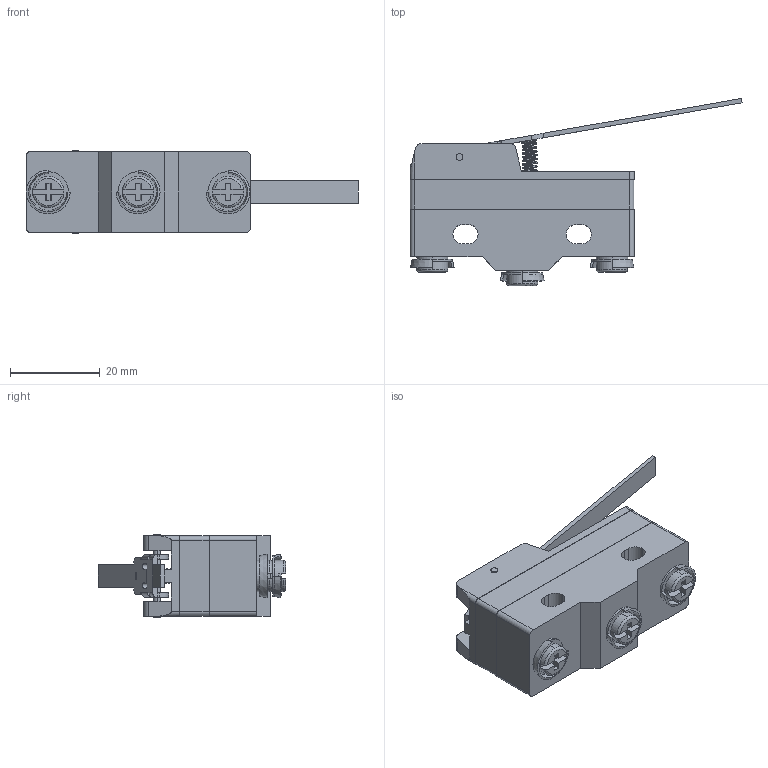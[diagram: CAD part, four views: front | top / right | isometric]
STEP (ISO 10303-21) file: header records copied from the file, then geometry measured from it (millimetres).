
FILE_DESCRIPTION (( 'STEP AP203' ), '1' );
FILE_NAME ('FM1701.STEP', '2018-06-01T16:49:14', ( '' ), ( '' ), 'SwSTEP 2.0', 'SolidWorks 2012', '' );
FILE_SCHEMA (( 'CONFIG_CONTROL_DESIGN' ));
Length unit declared in the file: millimetre
Products named in the file (1): FM1701
Bounding box: 73.86 x 41.63 x 18.5 mm (x, y, z)
Volume: 18601.8 mm3; surface area: 8167.4 mm2
Topology: 6 solids, 6 shells, 242 faces, 642 edges, 422 vertices
Faces by surface type: plane 140, cylinder 76, cone 15, torus 9, bspline 2
Entity records: 10535 total; most frequent: CARTESIAN_POINT 4318, DIRECTION 1288, ORIENTED_EDGE 1284, EDGE_CURVE 642, AXIS2_PLACEMENT_3D 440, VERTEX_POINT 422, VECTOR 408, LINE 408
